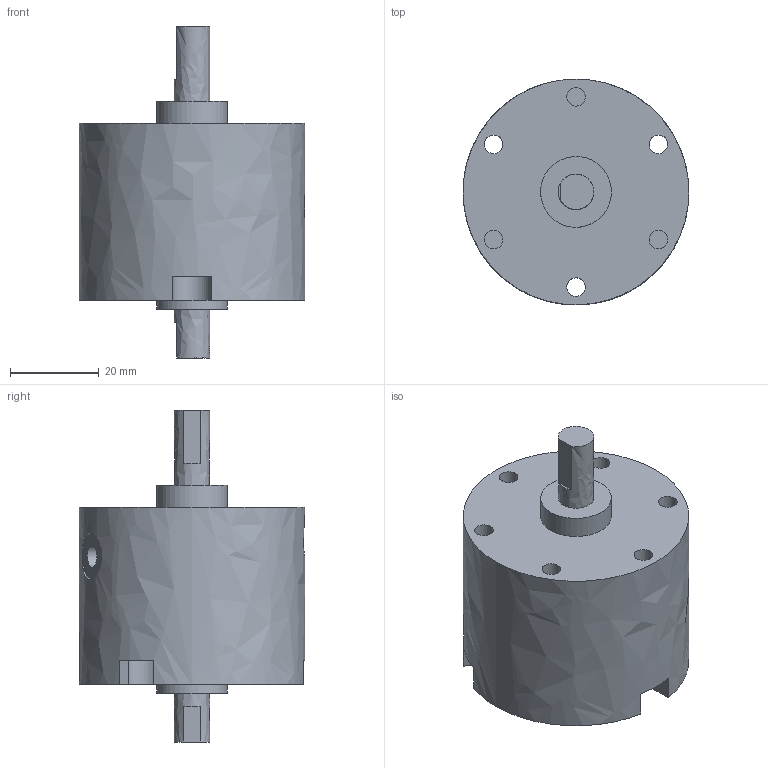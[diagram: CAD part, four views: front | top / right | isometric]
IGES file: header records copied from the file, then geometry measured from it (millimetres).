
Global section: file name: 6420_30_180; native system: Autodesk Inventor 2014; preprocessor: unknown; author: A. Manieri; date: 20170408.104320; units: millimetre
Bounding box: 51 x 51 x 75 mm (x, y, z)
Volume: 81030 mm3; surface area: 16073.3 mm2
Topology: 2 solids, 2 shells, 50 faces, 118 edges, 84 vertices
Faces by surface type: bspline 50
